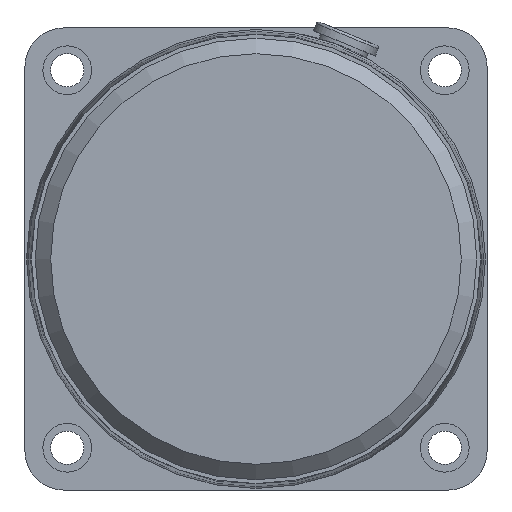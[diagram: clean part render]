
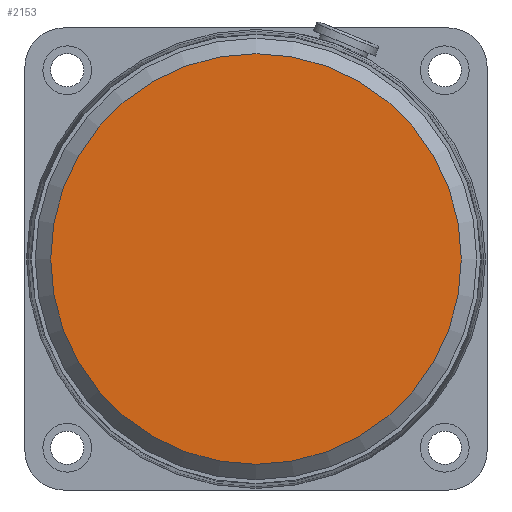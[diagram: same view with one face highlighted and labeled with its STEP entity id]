
A CAD part, left-side view. The second image highlights one B-rep face of the part: STEP entity #2153.
In plain terms, the highlighted planar face has unit normal (-1, 0, 0).
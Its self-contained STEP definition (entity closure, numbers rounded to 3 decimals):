
#2036=CARTESIAN_POINT('',(0.,40.,0.0));
#2037=VERTEX_POINT('',#2036);
#2038=CARTESIAN_POINT('',(0.,0.,0.0));
#2039=DIRECTION('',(1.0,0.0,0.0));
#2040=DIRECTION('',(0.0,1.0,0.0));
#2041=AXIS2_PLACEMENT_3D('',#2038,#2039,#2040);
#2042=CIRCLE('',#2041,40.);
#2043=EDGE_CURVE('',#2037,#2037,#2042,.T.);
#2145=CARTESIAN_POINT('',(0.,20.,0.0));
#2146=DIRECTION('',(-1.0,0.0,0.0));
#2147=DIRECTION('',(0.0,0.0,1.0));
#2148=AXIS2_PLACEMENT_3D('',#2145,#2146,#2147);
#2149=PLANE('',#2148);
#2150=ORIENTED_EDGE('',*,*,#2043,.F.);
#2151=EDGE_LOOP('',(#2150));
#2152=FACE_OUTER_BOUND('',#2151,.T.);
#2153=ADVANCED_FACE('',(#2152),#2149,.T.);
